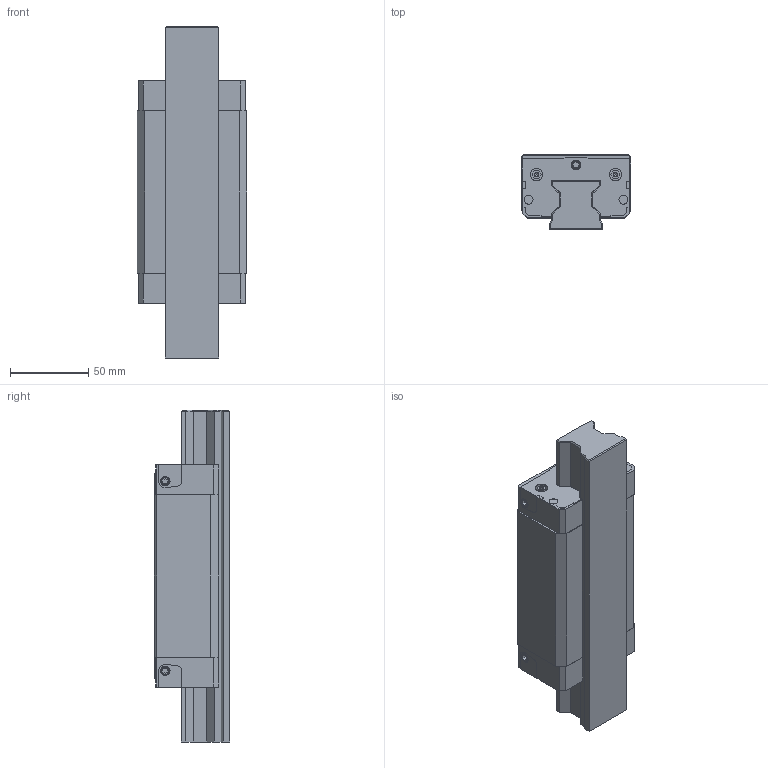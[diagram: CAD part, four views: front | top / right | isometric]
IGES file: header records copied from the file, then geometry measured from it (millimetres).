
Start section: 3D InterOp IGES (v. 2019 1.0.2), Spatial Corp. Copyright (c) 1999-2017.
Global section: file name: R1823_size35.igs; native system: Spatial Corp.; preprocessor: 3D InterOp GENERIC/IGES 3.0; author: Noname; organization: Noname; date: 20220630.112901; units: millimetre
Bounding box: 70 x 47.98 x 211.6 mm (x, y, z)
Surface area: 100570 mm2 (no closed solid volume)
Topology: 0 solids, 0 shells, 518 faces, 2688 edges, 2660 vertices
Faces by surface type: extrusion 322, revolution 196
